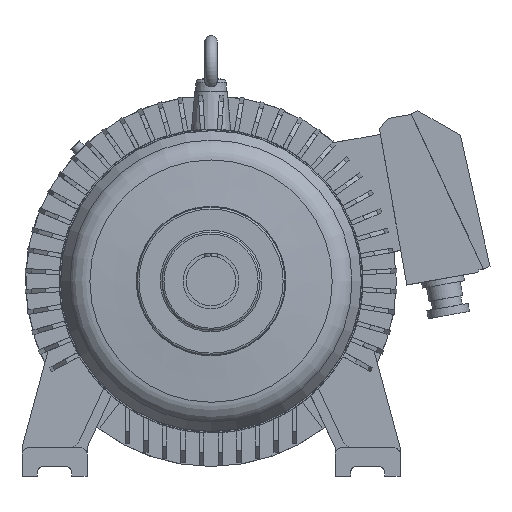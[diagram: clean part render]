
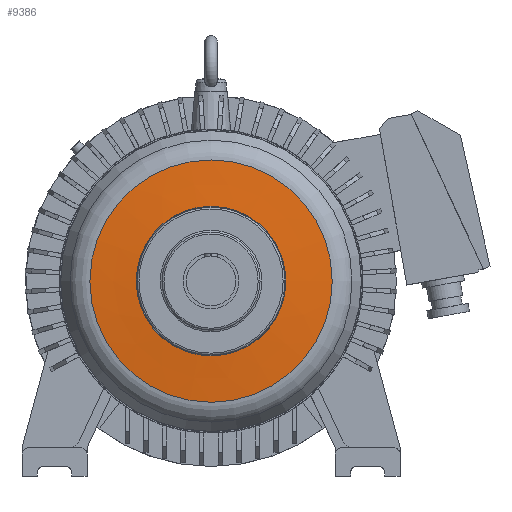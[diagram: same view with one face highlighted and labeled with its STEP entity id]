
A CAD part, front view. The second image highlights one B-rep face of the part: STEP entity #9386.
In plain terms, the highlighted conical face has half-angle 85.467 degrees and reference radius 120.716 mm.
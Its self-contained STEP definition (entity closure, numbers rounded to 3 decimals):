
#37=CONICAL_SURFACE('',#10118,120.716,1.492);
#3145=ORIENTED_EDGE('',*,*,#5713,.T.);
#3146=ORIENTED_EDGE('',*,*,#5712,.F.);
#5712=EDGE_CURVE('',#6987,#6987,#7609,.T.);
#5713=EDGE_CURVE('',#6988,#6988,#7610,.T.);
#6987=VERTEX_POINT('',#17048);
#6988=VERTEX_POINT('',#17051);
#7609=CIRCLE('',#10117,120.716);
#7610=CIRCLE('',#10119,195.492);
#7843=EDGE_LOOP('',(#3145));
#7844=EDGE_LOOP('',(#3146));
#8430=FACE_BOUND('',#7843,.T.);
#8431=FACE_BOUND('',#7844,.T.);
#9386=ADVANCED_FACE('',(#8430,#8431),#37,.T.);
#10117=AXIS2_PLACEMENT_3D('',#17047,#11609,#11610);
#10118=AXIS2_PLACEMENT_3D('',#17049,#11611,#11612);
#10119=AXIS2_PLACEMENT_3D('',#17050,#11613,#11614);
#11609=DIRECTION('',(0.,-1.,0.));
#11610=DIRECTION('',(1.,0.,0.));
#11611=DIRECTION('',(0.,1.,0.));
#11612=DIRECTION('',(-1.,0.,0.));
#11613=DIRECTION('',(0.,-1.,0.));
#11614=DIRECTION('',(1.,0.,0.));
#17047=CARTESIAN_POINT('',(0.,217.566,0.));
#17048=CARTESIAN_POINT('',(120.716,217.566,0.));
#17049=CARTESIAN_POINT('',(0.,217.566,0.));
#17050=CARTESIAN_POINT('',(0.,223.494,0.));
#17051=CARTESIAN_POINT('',(195.492,223.494,0.));
